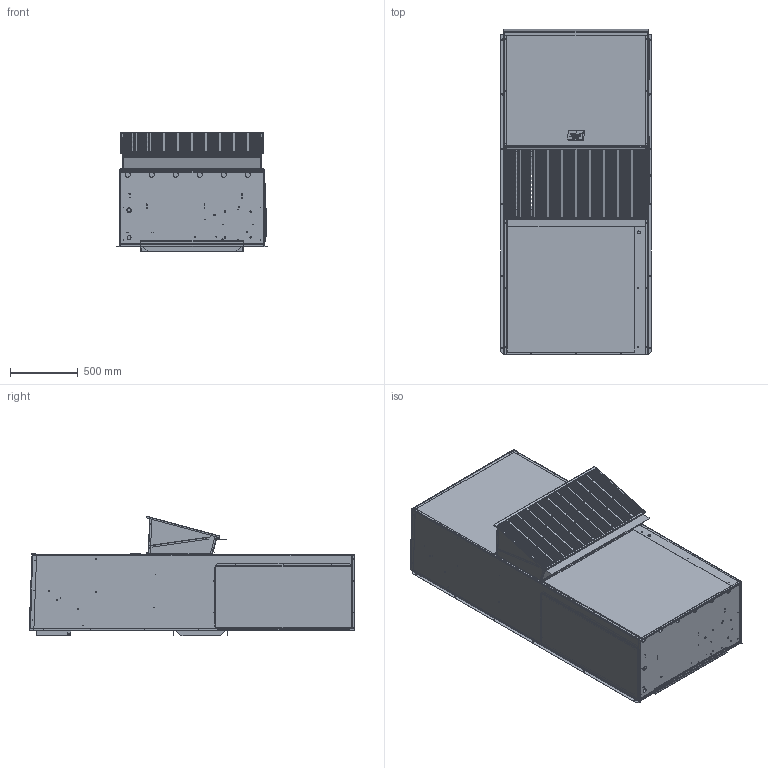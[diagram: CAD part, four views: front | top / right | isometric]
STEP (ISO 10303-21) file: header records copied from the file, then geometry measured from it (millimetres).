
FILE_DESCRIPTION (( 'STEP AP203' ), '1' );
FILE_NAME ('STEP_1400_11.STEP', '2016-06-28T19:01:24', ( 'BMC' ), ( 'Bard Manufacturing Co., Inc.' ), 'SwSTEP 2.0', 'SolidWorks 2016', '' );
FILE_SCHEMA (( 'CONFIG_CONTROL_DESIGN' ));
Length unit declared in the file: inch
Products named in the file (1): STEP_1400_11
Bounding box: 1113.88 x 2411.7 x 882.37 mm (x, y, z)
Surface area: 21272050 mm2 (no closed solid volume)
Topology: 0 solids, 65 shells, 4367 faces, 14274 edges, 9457 vertices
Faces by surface type: plane 2746, cylinder 1160, bspline 441, cone 12, torus 8
Entity records: 181849 total; most frequent: CARTESIAN_POINT 55962, ORIENTED_EDGE 25692, DIRECTION 24098, EDGE_CURVE 14262, LINE 10474, VECTOR 10474, VERTEX_POINT 9457, AXIS2_PLACEMENT_3D 6812
